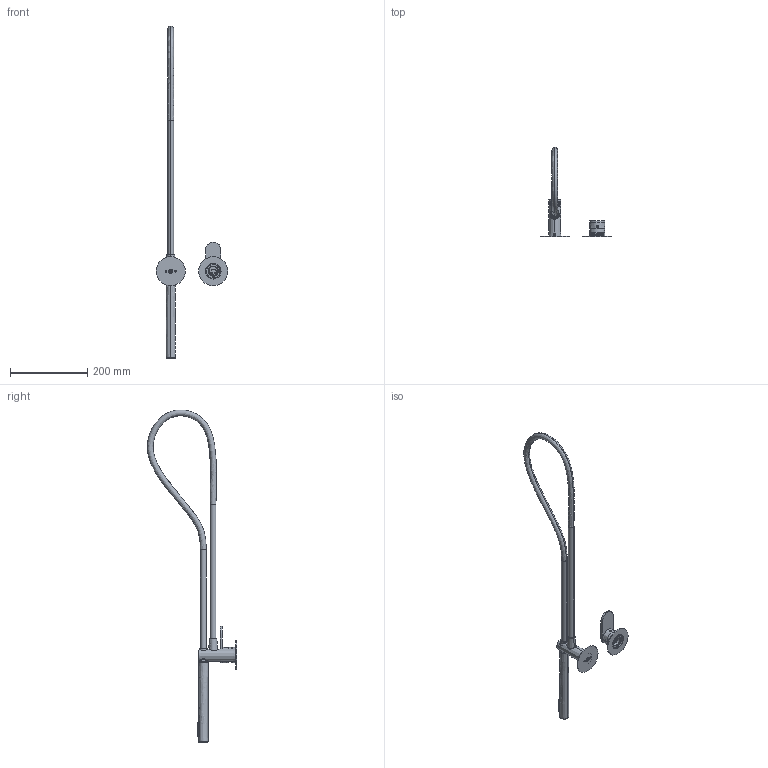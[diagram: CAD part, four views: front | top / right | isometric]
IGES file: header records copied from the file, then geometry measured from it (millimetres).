
Start section:  PTC IGES file: 79557.igs
Global section: file name: 79557.igs; native system: Creo Parametric by PTC Inc.; preprocessor: 2025443; author: carloff; organization: Unknown; date: 20261007.094708; units: millimetre
Bounding box: 185 x 230.87 x 858.72 mm (x, y, z)
Surface area: 144997.1 mm2 (no closed solid volume)
Topology: 0 solids, 0 shells, 760 faces, 3318 edges, 3308 vertices
Faces by surface type: revolution 550, bspline 210
